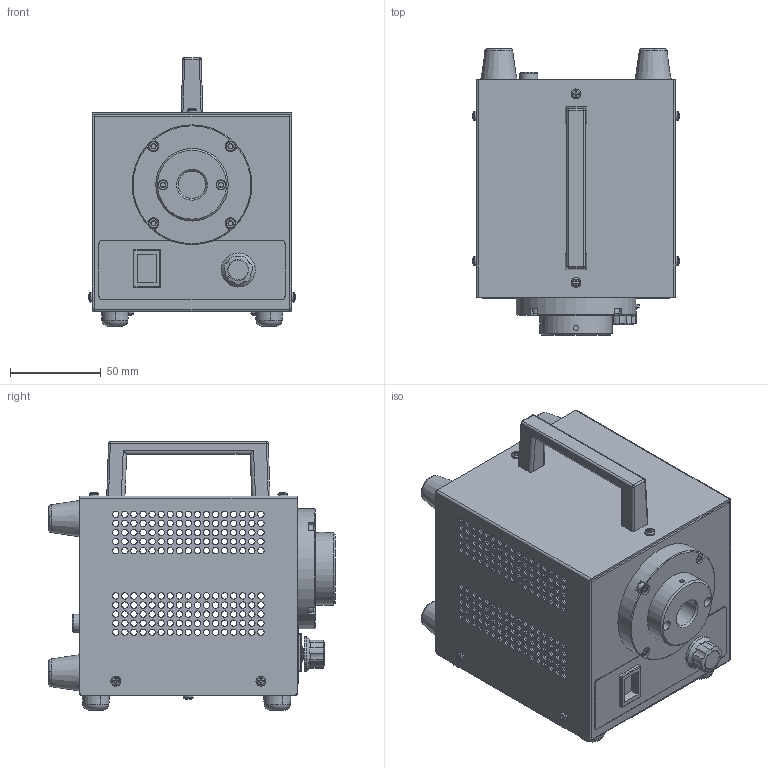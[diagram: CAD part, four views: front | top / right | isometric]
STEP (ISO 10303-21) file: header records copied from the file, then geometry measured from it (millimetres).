
FILE_DESCRIPTION(/* description */ (''),/* implementation_level */ '2;1');
FILE_NAME(/* name */ '//sv004/特品事業部/特品共通フォルダ/☆社外用データテスト/☆佐貫管理フォルダー☆/10_外観図一覧/A_ファイバー光源/A_6 LEDルミナーエース LA-HDF100NA/LA-HDF100NA.step',/* time_stamp */ '2022-02-09T10:25:05+09:00',/* author */ (''),/* organization */ (''),/* preprocessor_version */ 'ST-DEVELOPER v18.1',/* originating_system */ 'Autodesk Translation Framework v10.13.0.1454',/* authorisation */ '');
FILE_SCHEMA (('AUTOMOTIVE_DESIGN { 1 0 10303 214 3 1 1 }'));
Length unit declared in the file: millimetre
Products named in the file (1): LA-HDF100NA
Bounding box: 113.92 x 158 x 148 mm (x, y, z)
Volume: 204928.3 mm3; surface area: 220701.2 mm2
Topology: 50 solids, 50 shells, 1463 faces, 3720 edges, 2413 vertices
Faces by surface type: cylinder 630, plane 621, cone 119, torus 46, bspline 24, sphere 23
Full cylindrical faces by diameter (mm): 2.05 x2, 2.5 x4, 2.529 x13, 2.693 x15, 3 x29, 3.2 x2, 3.5 x375, 5 x4, 5.25 x1, 5.5 x10, 6 x3, 6.2 x3, 7 x1, 9 x8, 10 x2, 14.3 x1, 15 x2, 15.05 x1, 16 x2, 21.927 x1, 22 x1, 22.5 x1, 25 x1, 40 x2, 48.5 x1, 50 x1, 66 x1
Entity records: 47144 total; most frequent: CARTESIAN_POINT 8997, DIRECTION 8093, ORIENTED_EDGE 7406, EDGE_CURVE 3703, AXIS2_PLACEMENT_3D 3143, VERTEX_POINT 2413, EDGE_LOOP 2344, LINE 1807
